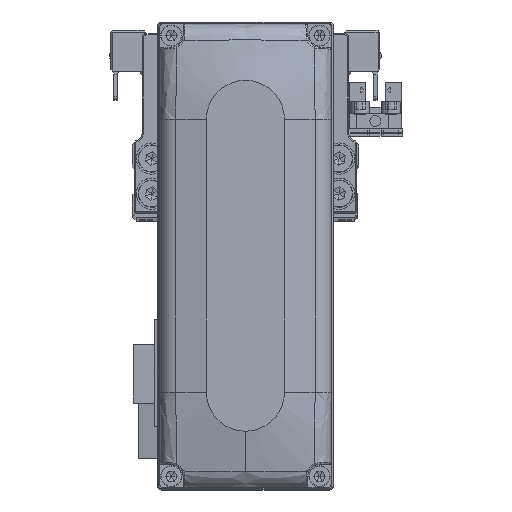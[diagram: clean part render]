
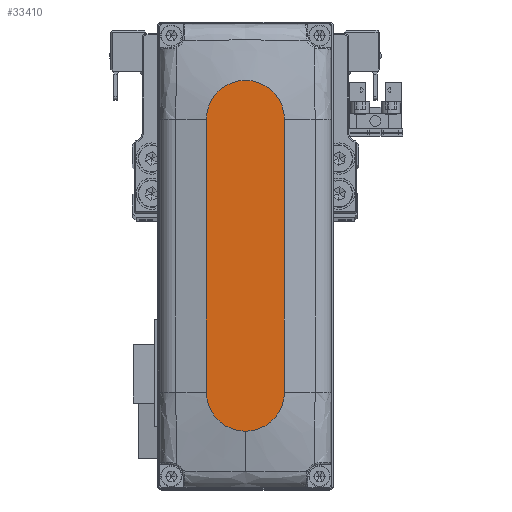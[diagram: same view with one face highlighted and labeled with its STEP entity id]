
A CAD part, top view. The second image highlights one B-rep face of the part: STEP entity #33410.
In plain terms, the highlighted planar face has unit normal (0, 0, 1).
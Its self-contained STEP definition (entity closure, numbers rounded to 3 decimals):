
#67 = DIRECTION ( 'NONE',  ( -1., 0., 0. ) ) ;
#337 = CARTESIAN_POINT ( 'NONE',  ( -35., 10., 28. ) ) ;
#1592 = VERTEX_POINT ( 'NONE', #337 ) ;
#2642 = CARTESIAN_POINT ( 'NONE',  ( 35., -10., 28. ) ) ;
#3249 = DIRECTION ( 'NONE',  ( 0., 0., 1. ) ) ;
#3421 = AXIS2_PLACEMENT_3D ( 'NONE', #30267, #3249, #15286 ) ;
#5380 = VERTEX_POINT ( 'NONE', #12356 ) ;
#5540 = VECTOR ( 'NONE', #67, 1000. ) ;
#7219 = AXIS2_PLACEMENT_3D ( 'NONE', #34707, #7713, #19739 ) ;
#7417 = VERTEX_POINT ( 'NONE', #15958 ) ;
#7713 = DIRECTION ( 'NONE',  ( 0., 0., 1. ) ) ;
#8576 = ORIENTED_EDGE ( 'NONE', *, *, #18587, .T. ) ;
#8745 = CIRCLE ( 'NONE', #30778, 10. ) ;
#10739 = AXIS2_PLACEMENT_3D ( 'NONE', #11309, #23332, #35352 ) ;
#11309 = CARTESIAN_POINT ( 'NONE',  ( 0., 0., 28. ) ) ;
#11942 = DIRECTION ( 'NONE',  ( 0., 0., 1. ) ) ;
#12356 = CARTESIAN_POINT ( 'NONE',  ( -35., -10., 28. ) ) ;
#12507 = VERTEX_POINT ( 'NONE', #30674 ) ;
#14262 = LINE ( 'NONE', #26294, #32153 ) ;
#15036 = ORIENTED_EDGE ( 'NONE', *, *, #31693, .T. ) ;
#15062 = LINE ( 'NONE', #27093, #5540 ) ;
#15203 = VERTEX_POINT ( 'NONE', #2642 ) ;
#15286 = DIRECTION ( 'NONE',  ( 1., 0., 0. ) ) ;
#15958 = CARTESIAN_POINT ( 'NONE',  ( 45., 0., 28. ) ) ;
#16589 = EDGE_LOOP ( 'NONE', ( #26011, #37982, #23337, #8576, #15036 ) ) ;
#18587 = EDGE_CURVE ( 'NONE', #15203, #7417, #24266, .T. ) ;
#19739 = DIRECTION ( 'NONE',  ( 1., 0., 0. ) ) ;
#20430 = CIRCLE ( 'NONE', #3421, 10. ) ;
#23332 = DIRECTION ( 'NONE',  ( 0., 0., 1. ) ) ;
#23334 = EDGE_CURVE ( 'NONE', #12507, #1592, #15062, .T. ) ;
#23337 = ORIENTED_EDGE ( 'NONE', *, *, #38947, .T. ) ;
#23970 = DIRECTION ( 'NONE',  ( 1., 0., 0. ) ) ;
#24266 = CIRCLE ( 'NONE', #7219, 10. ) ;
#26011 = ORIENTED_EDGE ( 'NONE', *, *, #23334, .T. ) ;
#26286 = FACE_OUTER_BOUND ( 'NONE', #16589, .T. ) ;
#26294 = CARTESIAN_POINT ( 'NONE',  ( -35., -10., 28. ) ) ;
#27093 = CARTESIAN_POINT ( 'NONE',  ( -35., 10., 28. ) ) ;
#27370 = EDGE_CURVE ( 'NONE', #1592, #5380, #20430, .T. ) ;
#30267 = CARTESIAN_POINT ( 'NONE',  ( -35., 0., 28. ) ) ;
#30674 = CARTESIAN_POINT ( 'NONE',  ( 35., 10., 28. ) ) ;
#30778 = AXIS2_PLACEMENT_3D ( 'NONE', #38924, #11942, #23970 ) ;
#31693 = EDGE_CURVE ( 'NONE', #7417, #12507, #8745, .T. ) ;
#32153 = VECTOR ( 'NONE', #38306, 1000. ) ;
#33410 = ADVANCED_FACE ( 'NONE', ( #26286 ), #38298, .T. ) ;
#34707 = CARTESIAN_POINT ( 'NONE',  ( 35., 0., 28. ) ) ;
#35352 = DIRECTION ( 'NONE',  ( 1., 0., 0. ) ) ;
#37982 = ORIENTED_EDGE ( 'NONE', *, *, #27370, .T. ) ;
#38298 = PLANE ( 'NONE',  #10739 ) ;
#38306 = DIRECTION ( 'NONE',  ( 1., 0., 0. ) ) ;
#38924 = CARTESIAN_POINT ( 'NONE',  ( 35., 0., 28. ) ) ;
#38947 = EDGE_CURVE ( 'NONE', #5380, #15203, #14262, .T. ) ;
